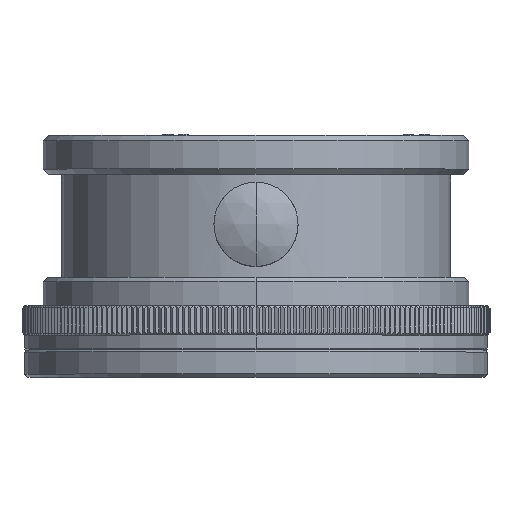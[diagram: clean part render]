
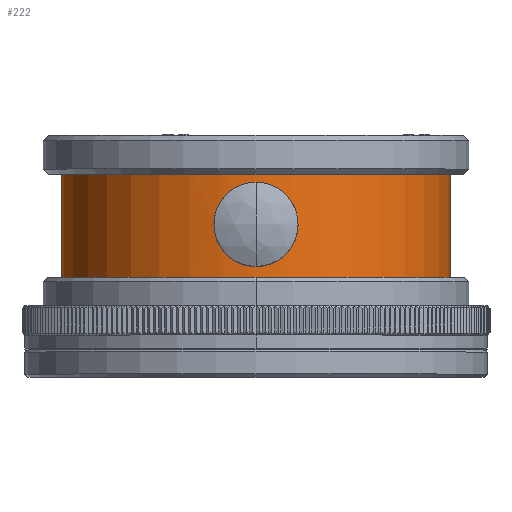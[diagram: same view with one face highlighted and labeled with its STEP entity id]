
A CAD part, top view. The second image highlights one B-rep face of the part: STEP entity #222.
In plain terms, the highlighted cylindrical face has radius 18.5 mm (diameter 37 mm), a partial arc.
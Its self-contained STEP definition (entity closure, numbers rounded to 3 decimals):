
#222=ADVANCED_FACE('',(#1383,#1384),#1385,.T.);
#1383=FACE_BOUND('',#3595,.T.);
#1384=FACE_OUTER_BOUND('',#3596,.T.);
#1385=CYLINDRICAL_SURFACE('',#3597,18.5);
#3595=EDGE_LOOP('',(#6760,#6761));
#3596=EDGE_LOOP('',(#6762,#6763,#6764,#6765,#6766));
#3597=AXIS2_PLACEMENT_3D('',#6767,#6768,#6769);
#6760=ORIENTED_EDGE('',*,*,#15091,.F.);
#6761=ORIENTED_EDGE('',*,*,#15092,.F.);
#6762=ORIENTED_EDGE('',*,*,#15093,.F.);
#6763=ORIENTED_EDGE('',*,*,#15087,.T.);
#6764=ORIENTED_EDGE('',*,*,#15094,.T.);
#6765=ORIENTED_EDGE('',*,*,#15095,.F.);
#6766=ORIENTED_EDGE('',*,*,#15096,.F.);
#6767=CARTESIAN_POINT('',(0.0,-13.0,0.));
#6768=DIRECTION('',(-0.0,1.0,0.0));
#6769=DIRECTION('',(1.0,0.0,0.0));
#15087=EDGE_CURVE('',#18633,#18630,#18634,.T.);
#15091=EDGE_CURVE('',#18640,#18641,#18642,.T.);
#15092=EDGE_CURVE('',#18641,#18640,#18643,.T.);
#15093=EDGE_CURVE('',#18633,#18644,#18645,.T.);
#15094=EDGE_CURVE('',#18630,#18646,#18647,.T.);
#15095=EDGE_CURVE('',#18648,#18646,#18649,.T.);
#15096=EDGE_CURVE('',#18644,#18648,#18650,.T.);
#18630=VERTEX_POINT('',#24811);
#18633=VERTEX_POINT('',#24815);
#18634=CIRCLE('',#24816,18.5);
#18640=VERTEX_POINT('',#24823);
#18641=VERTEX_POINT('',#24824);
#18642=B_SPLINE_CURVE_WITH_KNOTS('',3,(#24825,#24826,#24827,#24828,#24829,#24830,#24831,#24832,#24833,#24834,#24835,#24836,#24837,#24838,#24839,#24840,#24841,#24842,#24843,#24844,#24845,#24846,#24847,#24848,#24849,#24850,#24851,#24852,#24853,#24854,#24855,#24856,#24857,#24858),.UNSPECIFIED.,.F.,.F.,(4,2,2,2,2,2,2,2,2,2,2,2,2,2,2,2,4),(0.0,0.756,1.512,2.268,3.024,3.78,4.536,5.292,6.048,6.804,7.559,8.315,9.071,9.827,10.583,11.339,12.095),.UNSPECIFIED.);
#18643=B_SPLINE_CURVE_WITH_KNOTS('',3,(#24859,#24860,#24861,#24862,#24863,#24864,#24865,#24866,#24867,#24868,#24869,#24870,#24871,#24872,#24873,#24874,#24875,#24876,#24877,#24878,#24879,#24880,#24881,#24882,#24883,#24884,#24885,#24886,#24887,#24888,#24889,#24890,#24891,#24892),.UNSPECIFIED.,.F.,.F.,(4,2,2,2,2,2,2,2,2,2,2,2,2,2,2,2,4),(12.095,12.851,13.607,14.363,15.119,15.875,16.631,17.387,18.143,18.899,19.655,20.411,21.166,21.922,22.678,23.434,24.19),.UNSPECIFIED.);
#18644=VERTEX_POINT('',#24893);
#18645=LINE('',#24894,#24895);
#18646=VERTEX_POINT('',#24896);
#18647=CIRCLE('',#24897,18.5);
#18648=VERTEX_POINT('',#24898);
#18649=LINE('',#24899,#24900);
#18650=CIRCLE('',#24901,18.5);
#24811=CARTESIAN_POINT('',(0.0,-0.2,18.5));
#24815=CARTESIAN_POINT('',(18.5,-0.2,0.));
#24816=AXIS2_PLACEMENT_3D('',#39773,#39774,#39775);
#24823=CARTESIAN_POINT('',(4.0,-6.0,18.062));
#24824=CARTESIAN_POINT('',(-4.0,-6.,18.062));
#24825=CARTESIAN_POINT('',(4.0,-6.0,18.062));
#24826=CARTESIAN_POINT('',(4.0,-5.748,18.062));
#24827=CARTESIAN_POINT('',(3.976,-5.488,18.068));
#24828=CARTESIAN_POINT('',(3.874,-4.97,18.09));
#24829=CARTESIAN_POINT('',(3.797,-4.713,18.107));
#24830=CARTESIAN_POINT('',(3.592,-4.221,18.148));
#24831=CARTESIAN_POINT('',(3.465,-3.985,18.173));
#24832=CARTESIAN_POINT('',(3.172,-3.549,18.227));
#24833=CARTESIAN_POINT('',(3.006,-3.349,18.255));
#24834=CARTESIAN_POINT('',(2.651,-2.994,18.31));
#24835=CARTESIAN_POINT('',(2.451,-2.828,18.338));
#24836=CARTESIAN_POINT('',(2.015,-2.535,18.391));
#24837=CARTESIAN_POINT('',(1.779,-2.408,18.416));
#24838=CARTESIAN_POINT('',(1.287,-2.203,18.457));
#24839=CARTESIAN_POINT('',(1.03,-2.126,18.473));
#24840=CARTESIAN_POINT('',(0.512,-2.024,18.495));
#24841=CARTESIAN_POINT('',(0.252,-2.0,18.5));
#24842=CARTESIAN_POINT('',(-0.252,-2.0,18.5));
#24843=CARTESIAN_POINT('',(-0.512,-2.024,18.495));
#24844=CARTESIAN_POINT('',(-1.03,-2.126,18.473));
#24845=CARTESIAN_POINT('',(-1.287,-2.203,18.457));
#24846=CARTESIAN_POINT('',(-1.779,-2.408,18.416));
#24847=CARTESIAN_POINT('',(-2.015,-2.535,18.391));
#24848=CARTESIAN_POINT('',(-2.451,-2.828,18.338));
#24849=CARTESIAN_POINT('',(-2.651,-2.994,18.31));
#24850=CARTESIAN_POINT('',(-3.006,-3.349,18.255));
#24851=CARTESIAN_POINT('',(-3.172,-3.549,18.227));
#24852=CARTESIAN_POINT('',(-3.465,-3.985,18.173));
#24853=CARTESIAN_POINT('',(-3.592,-4.221,18.148));
#24854=CARTESIAN_POINT('',(-3.797,-4.713,18.107));
#24855=CARTESIAN_POINT('',(-3.874,-4.97,18.09));
#24856=CARTESIAN_POINT('',(-3.976,-5.488,18.068));
#24857=CARTESIAN_POINT('',(-4.0,-5.748,18.062));
#24858=CARTESIAN_POINT('',(-4.0,-6.,18.062));
#24859=CARTESIAN_POINT('',(-4.0,-6.0,18.062));
#24860=CARTESIAN_POINT('',(-4.0,-6.252,18.062));
#24861=CARTESIAN_POINT('',(-3.976,-6.512,18.068));
#24862=CARTESIAN_POINT('',(-3.874,-7.03,18.09));
#24863=CARTESIAN_POINT('',(-3.797,-7.287,18.107));
#24864=CARTESIAN_POINT('',(-3.592,-7.779,18.148));
#24865=CARTESIAN_POINT('',(-3.465,-8.015,18.173));
#24866=CARTESIAN_POINT('',(-3.172,-8.451,18.227));
#24867=CARTESIAN_POINT('',(-3.006,-8.651,18.255));
#24868=CARTESIAN_POINT('',(-2.651,-9.006,18.31));
#24869=CARTESIAN_POINT('',(-2.451,-9.172,18.338));
#24870=CARTESIAN_POINT('',(-2.015,-9.465,18.391));
#24871=CARTESIAN_POINT('',(-1.779,-9.592,18.416));
#24872=CARTESIAN_POINT('',(-1.287,-9.797,18.457));
#24873=CARTESIAN_POINT('',(-1.03,-9.874,18.473));
#24874=CARTESIAN_POINT('',(-0.512,-9.976,18.495));
#24875=CARTESIAN_POINT('',(-0.252,-10.0,18.5));
#24876=CARTESIAN_POINT('',(0.252,-10.0,18.5));
#24877=CARTESIAN_POINT('',(0.512,-9.976,18.495));
#24878=CARTESIAN_POINT('',(1.03,-9.874,18.473));
#24879=CARTESIAN_POINT('',(1.287,-9.797,18.457));
#24880=CARTESIAN_POINT('',(1.779,-9.592,18.416));
#24881=CARTESIAN_POINT('',(2.015,-9.465,18.391));
#24882=CARTESIAN_POINT('',(2.451,-9.172,18.338));
#24883=CARTESIAN_POINT('',(2.651,-9.006,18.31));
#24884=CARTESIAN_POINT('',(3.006,-8.651,18.255));
#24885=CARTESIAN_POINT('',(3.172,-8.451,18.227));
#24886=CARTESIAN_POINT('',(3.465,-8.015,18.173));
#24887=CARTESIAN_POINT('',(3.592,-7.779,18.148));
#24888=CARTESIAN_POINT('',(3.797,-7.287,18.107));
#24889=CARTESIAN_POINT('',(3.874,-7.03,18.09));
#24890=CARTESIAN_POINT('',(3.976,-6.512,18.068));
#24891=CARTESIAN_POINT('',(4.0,-6.252,18.062));
#24892=CARTESIAN_POINT('',(4.0,-6.0,18.062));
#24893=CARTESIAN_POINT('',(18.5,-12.915,0.));
#24894=CARTESIAN_POINT('',(18.5,-6.558,0.));
#24895=VECTOR('',#39783,1.0);
#24896=CARTESIAN_POINT('',(-18.5,-0.2,0.));
#24897=AXIS2_PLACEMENT_3D('',#39784,#39785,#39786);
#24898=CARTESIAN_POINT('',(-18.5,-12.915,0.));
#24899=CARTESIAN_POINT('',(-18.5,-6.558,0.));
#24900=VECTOR('',#39787,1.0);
#24901=AXIS2_PLACEMENT_3D('',#39788,#39789,#39790);
#39773=CARTESIAN_POINT('',(0.0,-0.2,0.));
#39774=DIRECTION('',(0.0,-1.0,0.0));
#39775=DIRECTION('',(1.0,0.0,0.0));
#39783=DIRECTION('',(-0.0,-1.0,-0.0));
#39784=CARTESIAN_POINT('',(0.0,-0.2,0.));
#39785=DIRECTION('',(0.0,-1.0,0.0));
#39786=DIRECTION('',(1.0,0.0,0.0));
#39787=DIRECTION('',(0.0,1.0,0.0));
#39788=CARTESIAN_POINT('',(0.0,-12.915,0.));
#39789=DIRECTION('',(0.0,-1.0,0.0));
#39790=DIRECTION('',(1.0,0.0,0.0));
